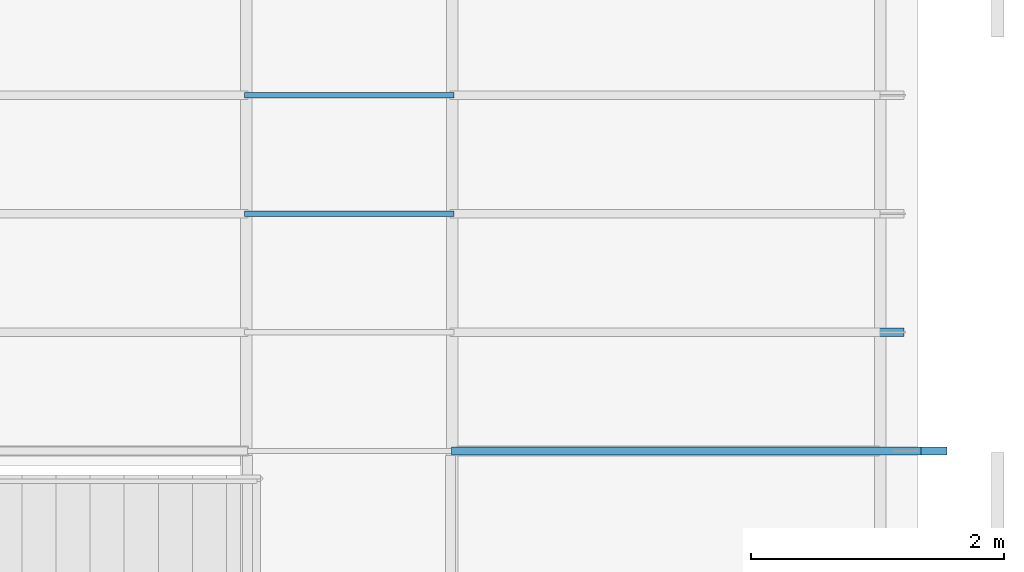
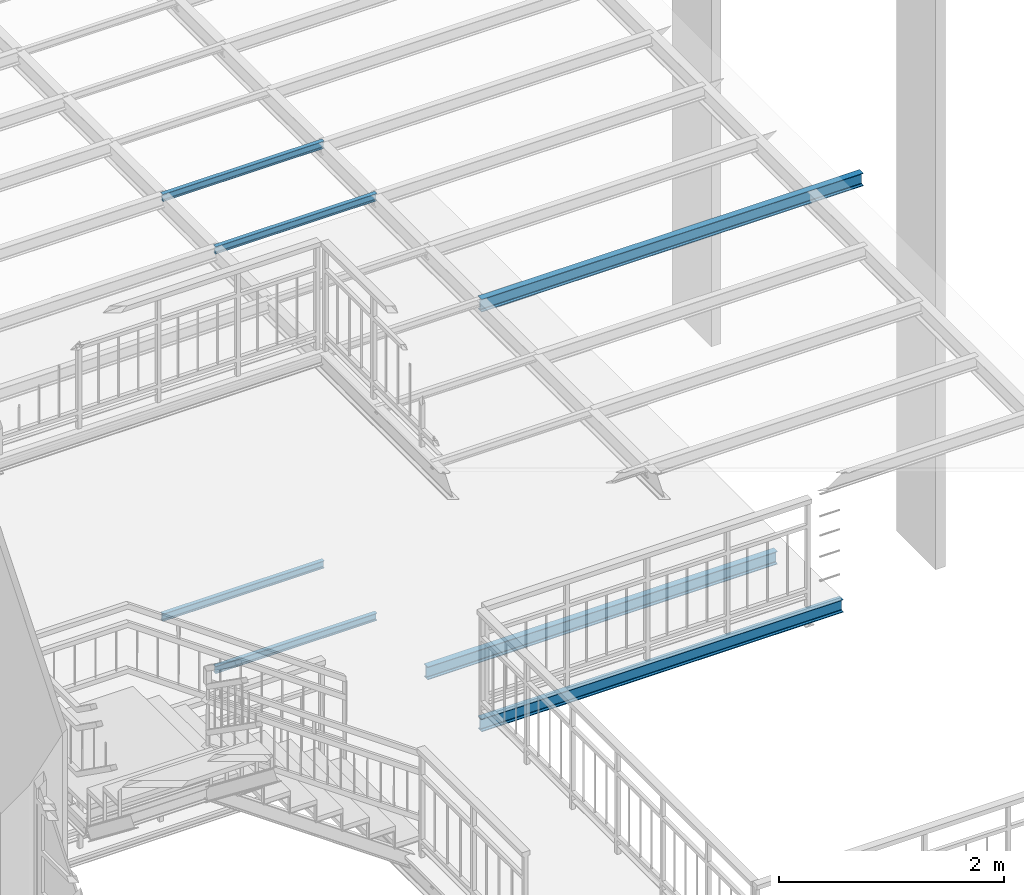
# One storey, part 16 of 33: 7 beams.
"""IFC2X3 building model written with IfcOpenShell, lengths in metres."""

from ifc_helpers import new_model, entity, si_unit, converted_unit, derived_unit, direction, frame, frame_2d, origin, place, context, subcontext, project, spatial, polyline, circle_curve, parameter, trimmed, segment, composite_curve, outline, extrude, material, type_object, element, save


model = new_model("IFC2X3")

# Units and contexts
model_context = context("Model", 3, precision=1e-05, world=origin(), true_north=direction((6.12303176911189e-17, 1.0)))
body_context = subcontext(model_context, "Body", "Model", "MODEL_VIEW")
ifc_project = project(units=[si_unit("LENGTHUNIT", "METRE"), si_unit("AREAUNIT", "SQUARE_METRE"), si_unit("VOLUMEUNIT", "CUBIC_METRE"), converted_unit("PLANEANGLEUNIT", "DEGREE", entity("IfcRatioMeasure", 0.0174532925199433), si_unit("PLANEANGLEUNIT", "RADIAN"), dimensions=[0, 0, 0, 0, 0, 0, 0]), si_unit("MASSUNIT", "GRAM", prefix="KILO"), derived_unit("MASSDENSITYUNIT", [(si_unit("MASSUNIT", "GRAM", prefix="KILO"), 1), (si_unit("LENGTHUNIT", "METRE"), -3)]), derived_unit("MOMENTOFINERTIAUNIT", [(si_unit("LENGTHUNIT", "METRE"), 4)]), si_unit("TIMEUNIT", "SECOND"), si_unit("FREQUENCYUNIT", "HERTZ"), si_unit("THERMODYNAMICTEMPERATUREUNIT", "DEGREE_CELSIUS"), derived_unit("THERMALTRANSMITTANCEUNIT", [(si_unit("MASSUNIT", "GRAM", prefix="KILO"), 1), (si_unit("THERMODYNAMICTEMPERATUREUNIT", "KELVIN"), -1), (si_unit("TIMEUNIT", "SECOND"), -3)]), derived_unit("VOLUMETRICFLOWRATEUNIT", [(si_unit("LENGTHUNIT", "METRE"), 3), (si_unit("TIMEUNIT", "SECOND"), -1)]), si_unit("ELECTRICCURRENTUNIT", "AMPERE"), si_unit("ELECTRICVOLTAGEUNIT", "VOLT"), si_unit("POWERUNIT", "WATT"), si_unit("FORCEUNIT", "NEWTON", prefix="KILO"), si_unit("ILLUMINANCEUNIT", "LUX"), si_unit("LUMINOUSFLUXUNIT", "LUMEN"), si_unit("LUMINOUSINTENSITYUNIT", "CANDELA"), derived_unit("USERDEFINED", [(si_unit("MASSUNIT", "GRAM", prefix="KILO"), -1), (si_unit("LENGTHUNIT", "METRE"), -2), (si_unit("TIMEUNIT", "SECOND"), 3), (si_unit("LUMINOUSFLUXUNIT", "LUMEN"), 1)]), derived_unit("LINEARVELOCITYUNIT", [(si_unit("LENGTHUNIT", "METRE"), 1), (si_unit("TIMEUNIT", "SECOND"), -1)]), si_unit("PRESSUREUNIT", "PASCAL"), derived_unit("USERDEFINED", [(si_unit("LENGTHUNIT", "METRE"), -2), (si_unit("MASSUNIT", "GRAM", prefix="KILO"), 1), (si_unit("TIMEUNIT", "SECOND"), -2)]), derived_unit("LINEARFORCEUNIT", [(si_unit("MASSUNIT", "GRAM", prefix="KILO"), 1), (si_unit("LENGTHUNIT", "METRE"), 1), (si_unit("TIMEUNIT", "SECOND"), -2), (si_unit("LENGTHUNIT", "METRE"), -1)]), derived_unit("PLANARFORCEUNIT", [(si_unit("MASSUNIT", "GRAM", prefix="KILO"), 1), (si_unit("LENGTHUNIT", "METRE"), 1), (si_unit("TIMEUNIT", "SECOND"), -2), (si_unit("LENGTHUNIT", "METRE"), -2)])], contexts=[model_context])

# Site, building, storey
site_placement = place(None, origin())
site = spatial("IfcSite", under=ifc_project, at=site_placement, Name="Superficie", CompositionType="ELEMENT")
building_placement = place(site_placement, origin())
building = spatial("IfcBuilding", under=site, at=building_placement, Name="Telegestiones", CompositionType="ELEMENT")
storey_placement = place(building_placement, frame((0.0, 0.0, 4.94)))
storey = spatial("IfcBuildingStorey", under=building, at=storey_placement, Name="Nivel 1_NPT", CompositionType="ELEMENT", Elevation=4.94)

# Beams
ifc_material = material(Name="Metal - Acero - 345 MPa")
beam_type_1 = type_object("IfcBeamType", Name="IPN - Secciones en I con alas cónicas:IPN 140", PredefinedType="NOTDEFINED")
beam_1_placement = place(storey_placement, frame((11.2748126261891, 6.43560722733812, 0.0)))
element("IfcBeam", 1, at=beam_1_placement, inside=storey, type_object=beam_type_1, material=ifc_material, Name="IPN - Secciones en I con alas cónicas:IPN 140", ObjectType="IPN - Secciones en I con alas cónicas:IPN 140", context=body_context, shape_type="SweptSolid", body=[
    extrude(outline(composite_curve([segment(polyline([(0.0666671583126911, -0.0330000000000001), (0.0700000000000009, -0.0330000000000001)]), True, "CONTINUOUS"), segment(polyline([(0.0700000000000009, -0.0330000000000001), (0.0700000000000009, 0.032999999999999)]), True, "CONTINUOUS"), segment(polyline([(0.0700000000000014, 0.032999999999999), (0.0666671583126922, 0.032999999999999)]), True, "CONTINUOUS"), segment(trimmed(circle_curve(frame_2d((0.0666671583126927, 0.0295999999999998), x_axis=(0.0, 1.0)), 0.00340000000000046), [parameter(0.0)], [parameter(82.0303896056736)], True, "PARAMETER"), True, "CONTINUOUS"), segment(polyline([(0.0632999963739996, 0.0300714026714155), (0.0601763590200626, 0.00775970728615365)]), True, "CONTINUOUS"), segment(trimmed(circle_curve(frame_2d((0.0545314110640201, 0.00854999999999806), x_axis=(0.990341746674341, -0.138647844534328)), 0.00569999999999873), [parameter(277.969610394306)], [parameter(0.0)], True, "PARAMETER"), False, "CONTINUOUS"), segment(polyline([(0.0545314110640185, 0.00284999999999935), (-0.0545314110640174, 0.00284999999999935)]), True, "CONTINUOUS"), segment(trimmed(circle_curve(frame_2d((-0.0545314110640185, 0.00854999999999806), x_axis=(0.0, -1.0)), 0.00569999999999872), [parameter(277.969610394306)], [parameter(0.0)], True, "PARAMETER"), False, "CONTINUOUS"), segment(polyline([(-0.0601763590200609, 0.00775970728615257), (-0.0632999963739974, 0.0300714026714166)]), True, "CONTINUOUS"), segment(trimmed(circle_curve(frame_2d((-0.0666671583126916, 0.0295999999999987), x_axis=(0.990341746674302, 0.138647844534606)), 0.00340000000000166), [parameter(0.0)], [parameter(82.0303896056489)], True, "PARAMETER"), True, "CONTINUOUS"), segment(polyline([(-0.0666671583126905, 0.032999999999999), (-0.0699999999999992, 0.032999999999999)]), True, "CONTINUOUS"), segment(polyline([(-0.0699999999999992, 0.032999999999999), (-0.0699999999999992, -0.0330000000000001)]), True, "CONTINUOUS"), segment(polyline([(-0.0699999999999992, -0.0330000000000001), (-0.0666671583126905, -0.0330000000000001)]), True, "CONTINUOUS"), segment(trimmed(circle_curve(frame_2d((-0.0666671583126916, -0.0295999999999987), x_axis=(0.0, -1.0)), 0.00340000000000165), [parameter(0.0)], [parameter(82.0303896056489)], True, "PARAMETER"), True, "CONTINUOUS"), segment(polyline([(-0.0632999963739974, -0.0300714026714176), (-0.0601763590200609, -0.00775970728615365)]), True, "CONTINUOUS"), segment(trimmed(circle_curve(frame_2d((-0.0545314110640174, -0.00854999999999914), x_axis=(-0.990341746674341, 0.138647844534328)), 0.00569999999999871), [parameter(277.969610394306)], [parameter(0.0)], True, "PARAMETER"), False, "CONTINUOUS"), segment(polyline([(-0.0545314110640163, -0.00285000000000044), (0.0545314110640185, -0.00285000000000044)]), True, "CONTINUOUS"), segment(trimmed(circle_curve(frame_2d((0.0545314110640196, -0.00854999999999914), x_axis=(0.0, 1.0)), 0.0056999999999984), [parameter(277.969610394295)], [parameter(0.0)], True, "PARAMETER"), False, "CONTINUOUS"), segment(polyline([(0.060176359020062, -0.00775970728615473), (0.0632999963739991, -0.0300714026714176)]), True, "CONTINUOUS"), segment(trimmed(circle_curve(frame_2d((0.0666671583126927, -0.0295999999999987), x_axis=(-0.990341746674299, -0.138647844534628)), 0.00340000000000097), [parameter(0.0)], [parameter(82.0303896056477)], True, "PARAMETER"), True, "CONTINUOUS")], self_intersect=False)), frame((-0.00278380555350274, 0.0, -0.100000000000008), z_axis=(1.0, 0.0, 0.0), x_axis=(0.0, 0.0, -1.0)), (0.0, 0.0, 1.0), 3.71722731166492),
])
beam_2_placement = place(storey_placement, frame((11.2748126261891, 7.37460722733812, 0.0)))
element("IfcBeam", 2, at=beam_2_placement, inside=storey, type_object=beam_type_1, material=ifc_material, Name="IPN - Secciones en I con alas cónicas:IPN 140", ObjectType="IPN - Secciones en I con alas cónicas:IPN 140", context=body_context, shape_type="SweptSolid", body=[
    extrude(outline(composite_curve([segment(polyline([(0.0666671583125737, -0.0330000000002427), (0.0699999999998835, -0.0330000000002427)]), True, "CONTINUOUS"), segment(polyline([(0.0699999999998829, -0.0330000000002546), (0.0700000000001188, 0.0329999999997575)]), True, "CONTINUOUS"), segment(polyline([(0.0700000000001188, 0.0329999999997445), (0.0666671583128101, 0.0329999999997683)]), True, "CONTINUOUS"), segment(trimmed(circle_curve(frame_2d((0.0666671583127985, 0.0295999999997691), x_axis=(0.0, 1.0)), 0.00340000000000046), [parameter(0.0)], [parameter(82.0303896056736)], True, "PARAMETER"), True, "CONTINUOUS"), segment(polyline([(0.0632999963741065, 0.030071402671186), (0.0601763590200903, 0.00775970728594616)]), True, "CONTINUOUS"), segment(trimmed(circle_curve(frame_2d((0.0545314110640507, 0.00854999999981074), x_axis=(0.990341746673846, -0.138647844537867)), 0.00569999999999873), [parameter(277.969610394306)], [parameter(0.0)], True, "PARAMETER"), False, "CONTINUOUS"), segment(polyline([(0.0545314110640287, 0.00284999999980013), (-0.0545314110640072, 0.00285000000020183)]), True, "CONTINUOUS"), segment(trimmed(circle_curve(frame_2d((-0.0545314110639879, 0.00855000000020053), x_axis=(0.0, -1.0)), 0.00569999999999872), [parameter(277.969610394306)], [parameter(0.0)], True, "PARAMETER"), False, "CONTINUOUS"), segment(polyline([(-0.0601763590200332, 0.00775970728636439), (-0.06329999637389, 0.0300714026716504)]), True, "CONTINUOUS"), segment(trimmed(circle_curve(frame_2d((-0.0666671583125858, 0.0296000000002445), x_axis=(0.990341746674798, 0.138647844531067)), 0.00340000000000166), [parameter(0.0)], [parameter(82.0303896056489)], True, "PARAMETER"), True, "CONTINUOUS"), segment(polyline([(-0.0666671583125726, 0.0330000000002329), (-0.0699999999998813, 0.0330000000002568)]), True, "CONTINUOUS"), segment(polyline([(-0.0699999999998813, 0.0330000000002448), (-0.0700000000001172, -0.0329999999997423)]), True, "CONTINUOUS"), segment(polyline([(-0.0700000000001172, -0.0329999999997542), (-0.0666671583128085, -0.0329999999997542)]), True, "CONTINUOUS"), segment(trimmed(circle_curve(frame_2d((-0.0666671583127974, -0.0295999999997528), x_axis=(0.0, -1.0)), 0.00340000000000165), [parameter(0.0)], [parameter(82.0303896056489)], True, "PARAMETER"), True, "CONTINUOUS"), segment(polyline([(-0.0632999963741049, -0.0300714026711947), (-0.0601763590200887, -0.007759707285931)]), True, "CONTINUOUS"), segment(trimmed(circle_curve(frame_2d((-0.054531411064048, -0.00854999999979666), x_axis=(-0.990341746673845, 0.138647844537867)), 0.00569999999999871), [parameter(277.969610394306)], [parameter(0.0)], True, "PARAMETER"), False, "CONTINUOUS"), segment(polyline([(-0.0545314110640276, -0.00284999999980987), (0.0545314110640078, -0.00285000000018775)]), True, "CONTINUOUS"), segment(trimmed(circle_curve(frame_2d((0.054531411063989, -0.00855000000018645), x_axis=(0.0, 1.0)), 0.0056999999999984), [parameter(277.969610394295)], [parameter(0.0)], True, "PARAMETER"), False, "CONTINUOUS"), segment(polyline([(0.0601763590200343, -0.00775970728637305), (0.0632999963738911, -0.0300714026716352)]), True, "CONTINUOUS"), segment(trimmed(circle_curve(frame_2d((0.0666671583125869, -0.0296000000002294), x_axis=(-0.990341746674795, -0.138647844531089)), 0.00340000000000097), [parameter(0.0)], [parameter(82.0303896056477)], True, "PARAMETER"), True, "CONTINUOUS")], self_intersect=False)), frame((-0.0149999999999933, 0.0, -0.100000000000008), z_axis=(1.0, 0.0, 0.0), x_axis=(0.0, 0.0, -1.0)), (0.0, 0.0, 1.0), 3.59499999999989),
])
beam_3_placement = place(storey_placement, frame((11.2748126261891, 6.43560722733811, 4.56)))
element("IfcBeam", 3, at=beam_3_placement, inside=storey, type_object=beam_type_1, material=ifc_material, Name="IPN - Secciones en I con alas cónicas:IPN 140", ObjectType="IPN - Secciones en I con alas cónicas:IPN 140", context=body_context, shape_type="SweptSolid", body=[
    extrude(outline(composite_curve([segment(polyline([(0.0666671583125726, -0.0330000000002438), (0.0699999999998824, -0.0330000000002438)]), True, "CONTINUOUS"), segment(polyline([(0.0699999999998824, -0.0330000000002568), (0.0700000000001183, 0.0329999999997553)]), True, "CONTINUOUS"), segment(polyline([(0.0700000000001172, 0.0329999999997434), (0.0666671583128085, 0.0329999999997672)]), True, "CONTINUOUS"), segment(trimmed(circle_curve(frame_2d((0.0666671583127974, 0.0295999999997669), x_axis=(0.0, 1.0)), 0.00340000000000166), [parameter(0.0)], [parameter(82.0303896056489)], True, "PARAMETER"), True, "CONTINUOUS"), segment(polyline([(0.063299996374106, 0.0300714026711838), (0.0601763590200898, 0.00775970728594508)]), True, "CONTINUOUS"), segment(trimmed(circle_curve(frame_2d((0.054531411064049, 0.00854999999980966), x_axis=(0.990341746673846, -0.138647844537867)), 0.00569999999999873), [parameter(277.969610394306)], [parameter(0.0)], True, "PARAMETER"), False, "CONTINUOUS"), segment(polyline([(0.0545314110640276, 0.00284999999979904), (-0.0545314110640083, 0.00285000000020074)]), True, "CONTINUOUS"), segment(trimmed(circle_curve(frame_2d((-0.054531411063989, 0.00855000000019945), x_axis=(0.0, -1.0)), 0.00569999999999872), [parameter(277.969610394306)], [parameter(0.0)], True, "PARAMETER"), False, "CONTINUOUS"), segment(polyline([(-0.0601763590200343, 0.00775970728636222), (-0.0632999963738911, 0.0300714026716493)]), True, "CONTINUOUS"), segment(trimmed(circle_curve(frame_2d((-0.0666671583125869, 0.0296000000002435), x_axis=(0.990341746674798, 0.138647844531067)), 0.00340000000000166), [parameter(0.0)], [parameter(82.0303896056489)], True, "PARAMETER"), True, "CONTINUOUS"), segment(polyline([(-0.0666671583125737, 0.0330000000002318), (-0.0699999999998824, 0.0330000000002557)]), True, "CONTINUOUS"), segment(polyline([(-0.0699999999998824, 0.0330000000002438), (-0.0700000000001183, -0.0329999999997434)]), True, "CONTINUOUS"), segment(polyline([(-0.0700000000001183, -0.0329999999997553), (-0.0666671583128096, -0.0329999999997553)]), True, "CONTINUOUS"), segment(trimmed(circle_curve(frame_2d((-0.0666671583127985, -0.0295999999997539), x_axis=(0.0, -1.0)), 0.00340000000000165), [parameter(0.0)], [parameter(82.0303896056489)], True, "PARAMETER"), True, "CONTINUOUS"), segment(polyline([(-0.063299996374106, -0.0300714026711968), (-0.0601763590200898, -0.00775970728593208)]), True, "CONTINUOUS"), segment(trimmed(circle_curve(frame_2d((-0.054531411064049, -0.00854999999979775), x_axis=(-0.990341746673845, 0.138647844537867)), 0.00569999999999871), [parameter(277.969610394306)], [parameter(0.0)], True, "PARAMETER"), False, "CONTINUOUS"), segment(polyline([(-0.0545314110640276, -0.00284999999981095), (0.0545314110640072, -0.00285000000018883)]), True, "CONTINUOUS"), segment(trimmed(circle_curve(frame_2d((0.0545314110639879, -0.00855000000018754), x_axis=(0.0, 1.0)), 0.0056999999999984), [parameter(277.969610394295)], [parameter(0.0)], True, "PARAMETER"), False, "CONTINUOUS"), segment(polyline([(0.0601763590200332, -0.00775970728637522), (0.06329999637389, -0.0300714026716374)]), True, "CONTINUOUS"), segment(trimmed(circle_curve(frame_2d((0.0666671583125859, -0.0296000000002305), x_axis=(-0.990341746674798, -0.138647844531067)), 0.00340000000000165), [parameter(0.0)], [parameter(82.0303896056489)], True, "PARAMETER"), True, "CONTINUOUS")], self_intersect=False)), frame((-0.00300000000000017, 0.0, -0.100000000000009), z_axis=(1.0, 0.0, 0.0), x_axis=(0.0, 0.0, -1.0)), (0.0, 0.0, 1.0), 3.923),
])
beam_type_2 = type_object("IfcBeamType", Name="IPN - Secciones en I con alas cónicas:IPN 80", PredefinedType="NOTDEFINED")
beam_4_placement = place(storey_placement, frame((9.6448126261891, 9.25260722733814, 0.0)))
element("IfcBeam", 4, at=beam_4_placement, inside=storey, type_object=beam_type_2, material=ifc_material, Name="IPN - Secciones en I con alas cónicas:IPN 80", ObjectType="IPN - Secciones en I con alas cónicas:IPN 80", context=body_context, shape_type="SweptSolid", body=[
    extrude(outline(composite_curve([segment(polyline([(0.0375704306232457, -0.0210000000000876), (0.0399999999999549, -0.0210000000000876)]), True, "CONTINUOUS"), segment(polyline([(0.0399999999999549, -0.021000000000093), (0.0400000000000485, 0.0209999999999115)]), True, "CONTINUOUS"), segment(polyline([(0.0400000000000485, 0.0209999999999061), (0.0375704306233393, 0.0209999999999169)]), True, "CONTINUOUS"), segment(trimmed(circle_curve(frame_2d((0.0375704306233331, 0.0186999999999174), x_axis=(0.0, 1.0)), 0.00229999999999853), [parameter(0.0)], [parameter(82.0303896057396)], True, "PARAMETER"), True, "CONTINUOUS"), segment(polyline([(0.0352926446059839, 0.0190188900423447), (0.0333732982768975, 0.00530927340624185)]), True, "CONTINUOUS"), segment(trimmed(circle_curve(frame_2d((0.0295109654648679, 0.00584999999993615), x_axis=(0.99034174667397, -0.138647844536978)), 0.00390000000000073), [parameter(277.96961039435)], [parameter(0.0)], True, "PARAMETER"), False, "CONTINUOUS"), segment(polyline([(0.0295109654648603, 0.00194999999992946), (-0.0295109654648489, 0.00195000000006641)]), True, "CONTINUOUS"), segment(trimmed(circle_curve(frame_2d((-0.0295109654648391, 0.00585000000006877), x_axis=(0.0, -1.0)), 0.00390000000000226), [parameter(277.969610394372)], [parameter(0.0)], True, "PARAMETER"), False, "CONTINUOUS"), segment(polyline([(-0.0333732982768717, 0.00530927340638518), (-0.035292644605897, 0.0190188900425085)]), True, "CONTINUOUS"), segment(trimmed(circle_curve(frame_2d((-0.037570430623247, 0.018700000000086), x_axis=(0.990341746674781, 0.138647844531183)), 0.00229999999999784), [parameter(0.0)], [parameter(82.0303896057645)], True, "PARAMETER"), True, "CONTINUOUS"), segment(polyline([(-0.037570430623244, 0.0210000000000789), (-0.0399999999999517, 0.0210000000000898)]), True, "CONTINUOUS"), segment(polyline([(-0.0399999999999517, 0.0210000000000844), (-0.0400000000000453, -0.0209999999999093)]), True, "CONTINUOUS"), segment(polyline([(-0.0400000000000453, -0.0209999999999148), (-0.0375704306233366, -0.0209999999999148)]), True, "CONTINUOUS"), segment(trimmed(circle_curve(frame_2d((-0.0375704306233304, -0.0186999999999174), x_axis=(0.0, -1.0)), 0.00229999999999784), [parameter(0.0)], [parameter(82.0303896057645)], True, "PARAMETER"), True, "CONTINUOUS"), segment(polyline([(-0.0352926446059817, -0.0190188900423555), (-0.0333732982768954, -0.00530927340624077)]), True, "CONTINUOUS"), segment(trimmed(circle_curve(frame_2d((-0.0295109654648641, -0.00584999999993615), x_axis=(-0.990341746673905, 0.138647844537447)), 0.00390000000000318), [parameter(277.969610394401)], [parameter(0.0)], True, "PARAMETER"), False, "CONTINUOUS"), segment(polyline([(-0.0295109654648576, -0.00194999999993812), (0.0295109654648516, -0.00195000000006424)]), True, "CONTINUOUS"), segment(trimmed(circle_curve(frame_2d((0.0295109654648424, -0.00585000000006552), x_axis=(0.0, 1.0)), 0.00390000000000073), [parameter(277.96961039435)], [parameter(0.0)], True, "PARAMETER"), False, "CONTINUOUS"), segment(polyline([(0.0333732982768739, -0.00530927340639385), (0.0352926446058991, -0.0190188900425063)]), True, "CONTINUOUS"), segment(trimmed(circle_curve(frame_2d((0.0375704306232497, -0.0187000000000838), x_axis=(-0.990341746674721, -0.138647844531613)), 0.00229999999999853), [parameter(0.0)], [parameter(82.0303896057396)], True, "PARAMETER"), True, "CONTINUOUS")], self_intersect=False)), frame((-0.0149999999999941, 0.0, -0.0700000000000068), z_axis=(1.0, 0.0, 0.0), x_axis=(0.0, 0.0, -1.0)), (0.0, 0.0, 1.0), 1.66),
])
beam_5_placement = place(storey_placement, frame((9.6448126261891, 8.31360722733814, 0.0)))
element("IfcBeam", 5, at=beam_5_placement, inside=storey, type_object=beam_type_2, material=ifc_material, Name="IPN - Secciones en I con alas cónicas:IPN 80", ObjectType="IPN - Secciones en I con alas cónicas:IPN 80", context=body_context, shape_type="SweptSolid", body=[
    extrude(outline(composite_curve([segment(polyline([(0.0375704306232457, -0.0210000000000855), (0.0399999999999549, -0.0210000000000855)]), True, "CONTINUOUS"), segment(polyline([(0.0399999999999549, -0.0210000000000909), (0.0400000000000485, 0.0209999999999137)]), True, "CONTINUOUS"), segment(polyline([(0.0400000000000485, 0.0209999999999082), (0.0375704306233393, 0.0209999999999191)]), True, "CONTINUOUS"), segment(trimmed(circle_curve(frame_2d((0.0375704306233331, 0.0186999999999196), x_axis=(0.0, 1.0)), 0.00229999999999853), [parameter(0.0)], [parameter(82.0303896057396)], True, "PARAMETER"), True, "CONTINUOUS"), segment(polyline([(0.0352926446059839, 0.0190188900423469), (0.0333732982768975, 0.00530927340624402)]), True, "CONTINUOUS"), segment(trimmed(circle_curve(frame_2d((0.0295109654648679, 0.00584999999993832), x_axis=(0.99034174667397, -0.138647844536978)), 0.00390000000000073), [parameter(277.96961039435)], [parameter(0.0)], True, "PARAMETER"), False, "CONTINUOUS"), segment(polyline([(0.0295109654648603, 0.00194999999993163), (-0.0295109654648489, 0.00195000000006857)]), True, "CONTINUOUS"), segment(trimmed(circle_curve(frame_2d((-0.0295109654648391, 0.00585000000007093), x_axis=(0.0, -1.0)), 0.00390000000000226), [parameter(277.969610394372)], [parameter(0.0)], True, "PARAMETER"), False, "CONTINUOUS"), segment(polyline([(-0.0333732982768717, 0.00530927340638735), (-0.035292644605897, 0.0190188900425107)]), True, "CONTINUOUS"), segment(trimmed(circle_curve(frame_2d((-0.037570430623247, 0.0187000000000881), x_axis=(0.990341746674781, 0.138647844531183)), 0.00229999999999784), [parameter(0.0)], [parameter(82.0303896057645)], True, "PARAMETER"), True, "CONTINUOUS"), segment(polyline([(-0.037570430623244, 0.0210000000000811), (-0.0399999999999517, 0.0210000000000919)]), True, "CONTINUOUS"), segment(polyline([(-0.0399999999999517, 0.0210000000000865), (-0.0400000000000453, -0.0209999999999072)]), True, "CONTINUOUS"), segment(polyline([(-0.0400000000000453, -0.0209999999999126), (-0.0375704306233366, -0.0209999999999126)]), True, "CONTINUOUS"), segment(trimmed(circle_curve(frame_2d((-0.0375704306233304, -0.0186999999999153), x_axis=(0.0, -1.0)), 0.00229999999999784), [parameter(0.0)], [parameter(82.0303896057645)], True, "PARAMETER"), True, "CONTINUOUS"), segment(polyline([(-0.0352926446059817, -0.0190188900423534), (-0.0333732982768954, -0.0053092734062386)]), True, "CONTINUOUS"), segment(trimmed(circle_curve(frame_2d((-0.0295109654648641, -0.00584999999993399), x_axis=(-0.990341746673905, 0.138647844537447)), 0.00390000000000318), [parameter(277.969610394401)], [parameter(0.0)], True, "PARAMETER"), False, "CONTINUOUS"), segment(polyline([(-0.0295109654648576, -0.00194999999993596), (0.0295109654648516, -0.00195000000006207)]), True, "CONTINUOUS"), segment(trimmed(circle_curve(frame_2d((0.0295109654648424, -0.00585000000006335), x_axis=(0.0, 1.0)), 0.00390000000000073), [parameter(277.96961039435)], [parameter(0.0)], True, "PARAMETER"), False, "CONTINUOUS"), segment(polyline([(0.0333732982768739, -0.00530927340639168), (0.0352926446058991, -0.0190188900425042)]), True, "CONTINUOUS"), segment(trimmed(circle_curve(frame_2d((0.0375704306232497, -0.0187000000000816), x_axis=(-0.990341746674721, -0.138647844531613)), 0.00229999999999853), [parameter(0.0)], [parameter(82.0303896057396)], True, "PARAMETER"), True, "CONTINUOUS")], self_intersect=False)), frame((-0.0149999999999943, 0.0, -0.0700000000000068), z_axis=(1.0, 0.0, 0.0), x_axis=(0.0, 0.0, -1.0)), (0.0, 0.0, 1.0), 1.66),
])
beam_6_placement = place(storey_placement, frame((9.6448126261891, 9.25260722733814, 4.56)))
element("IfcBeam", 6, at=beam_6_placement, inside=storey, type_object=beam_type_2, material=ifc_material, Name="IPN - Secciones en I con alas cónicas:IPN 80", ObjectType="IPN - Secciones en I con alas cónicas:IPN 80", context=body_context, shape_type="SweptSolid", body=[
    extrude(outline(composite_curve([segment(polyline([(0.0375704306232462, -0.0210000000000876), (0.0399999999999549, -0.0210000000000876)]), True, "CONTINUOUS"), segment(polyline([(0.0399999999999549, -0.021000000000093), (0.0400000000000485, 0.0209999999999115)]), True, "CONTINUOUS"), segment(polyline([(0.0400000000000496, 0.0209999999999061), (0.0375704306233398, 0.0209999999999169)]), True, "CONTINUOUS"), segment(trimmed(circle_curve(frame_2d((0.0375704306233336, 0.0186999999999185), x_axis=(0.0, 1.0)), 0.00229999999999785), [parameter(0.0)], [parameter(82.0303896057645)], True, "PARAMETER"), True, "CONTINUOUS"), segment(polyline([(0.035292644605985, 0.0190188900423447), (0.0333732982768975, 0.00530927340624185)]), True, "CONTINUOUS"), segment(trimmed(circle_curve(frame_2d((0.0295109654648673, 0.00584999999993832), x_axis=(0.990341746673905, -0.138647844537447)), 0.00390000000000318), [parameter(277.969610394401)], [parameter(0.0)], True, "PARAMETER"), False, "CONTINUOUS"), segment(polyline([(0.0295109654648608, 0.00194999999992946), (-0.0295109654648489, 0.00195000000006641)]), True, "CONTINUOUS"), segment(trimmed(circle_curve(frame_2d((-0.0295109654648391, 0.00585000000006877), x_axis=(0.0, -1.0)), 0.00390000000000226), [parameter(277.969610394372)], [parameter(0.0)], True, "PARAMETER"), False, "CONTINUOUS"), segment(polyline([(-0.0333732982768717, 0.00530927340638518), (-0.035292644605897, 0.0190188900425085)]), True, "CONTINUOUS"), segment(trimmed(circle_curve(frame_2d((-0.037570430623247, 0.018700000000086), x_axis=(0.990341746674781, 0.138647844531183)), 0.00229999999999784), [parameter(0.0)], [parameter(82.0303896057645)], True, "PARAMETER"), True, "CONTINUOUS"), segment(polyline([(-0.037570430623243, 0.0210000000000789), (-0.0399999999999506, 0.0210000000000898)]), True, "CONTINUOUS"), segment(polyline([(-0.0399999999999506, 0.0210000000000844), (-0.0400000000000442, -0.0209999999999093)]), True, "CONTINUOUS"), segment(polyline([(-0.0400000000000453, -0.0209999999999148), (-0.0375704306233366, -0.0209999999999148)]), True, "CONTINUOUS"), segment(trimmed(circle_curve(frame_2d((-0.0375704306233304, -0.0186999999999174), x_axis=(0.0, -1.0)), 0.00229999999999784), [parameter(0.0)], [parameter(82.0303896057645)], True, "PARAMETER"), True, "CONTINUOUS"), segment(polyline([(-0.0352926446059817, -0.0190188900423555), (-0.0333732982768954, -0.00530927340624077)]), True, "CONTINUOUS"), segment(trimmed(circle_curve(frame_2d((-0.0295109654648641, -0.00584999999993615), x_axis=(-0.990341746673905, 0.138647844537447)), 0.00390000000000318), [parameter(277.969610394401)], [parameter(0.0)], True, "PARAMETER"), False, "CONTINUOUS"), segment(polyline([(-0.0295109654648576, -0.00194999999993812), (0.0295109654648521, -0.00195000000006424)]), True, "CONTINUOUS"), segment(trimmed(circle_curve(frame_2d((0.0295109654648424, -0.0058500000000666), x_axis=(0.0, 1.0)), 0.00390000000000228), [parameter(277.969610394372)], [parameter(0.0)], True, "PARAMETER"), False, "CONTINUOUS"), segment(polyline([(0.0333732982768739, -0.00530927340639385), (0.0352926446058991, -0.0190188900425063)]), True, "CONTINUOUS"), segment(trimmed(circle_curve(frame_2d((0.0375704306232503, -0.0187000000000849), x_axis=(-0.990341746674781, -0.138647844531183)), 0.00229999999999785), [parameter(0.0)], [parameter(82.0303896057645)], True, "PARAMETER"), True, "CONTINUOUS")], self_intersect=False)), frame((-0.0149999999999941, 0.0, -0.0700000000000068), z_axis=(1.0, 0.0, 0.0), x_axis=(0.0, 0.0, -1.0)), (0.0, 0.0, 1.0), 1.66),
])
beam_7_placement = place(storey_placement, frame((9.6448126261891, 8.31360722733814, 4.56)))
element("IfcBeam", 7, at=beam_7_placement, inside=storey, type_object=beam_type_2, material=ifc_material, Name="IPN - Secciones en I con alas cónicas:IPN 80", ObjectType="IPN - Secciones en I con alas cónicas:IPN 80", context=body_context, shape_type="SweptSolid", body=[
    extrude(outline(composite_curve([segment(polyline([(0.0375704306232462, -0.0210000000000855), (0.0399999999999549, -0.0210000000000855)]), True, "CONTINUOUS"), segment(polyline([(0.0399999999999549, -0.0210000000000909), (0.0400000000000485, 0.0209999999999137)]), True, "CONTINUOUS"), segment(polyline([(0.0400000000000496, 0.0209999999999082), (0.0375704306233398, 0.0209999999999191)]), True, "CONTINUOUS"), segment(trimmed(circle_curve(frame_2d((0.0375704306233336, 0.0186999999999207), x_axis=(0.0, 1.0)), 0.00229999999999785), [parameter(0.0)], [parameter(82.0303896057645)], True, "PARAMETER"), True, "CONTINUOUS"), segment(polyline([(0.035292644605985, 0.0190188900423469), (0.0333732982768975, 0.00530927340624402)]), True, "CONTINUOUS"), segment(trimmed(circle_curve(frame_2d((0.0295109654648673, 0.00584999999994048), x_axis=(0.990341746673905, -0.138647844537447)), 0.00390000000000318), [parameter(277.969610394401)], [parameter(0.0)], True, "PARAMETER"), False, "CONTINUOUS"), segment(polyline([(0.0295109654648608, 0.00194999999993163), (-0.0295109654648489, 0.00195000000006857)]), True, "CONTINUOUS"), segment(trimmed(circle_curve(frame_2d((-0.0295109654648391, 0.00585000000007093), x_axis=(0.0, -1.0)), 0.00390000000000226), [parameter(277.969610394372)], [parameter(0.0)], True, "PARAMETER"), False, "CONTINUOUS"), segment(polyline([(-0.0333732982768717, 0.00530927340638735), (-0.035292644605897, 0.0190188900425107)]), True, "CONTINUOUS"), segment(trimmed(circle_curve(frame_2d((-0.037570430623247, 0.0187000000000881), x_axis=(0.990341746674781, 0.138647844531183)), 0.00229999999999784), [parameter(0.0)], [parameter(82.0303896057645)], True, "PARAMETER"), True, "CONTINUOUS"), segment(polyline([(-0.037570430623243, 0.0210000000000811), (-0.0399999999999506, 0.0210000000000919)]), True, "CONTINUOUS"), segment(polyline([(-0.0399999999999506, 0.0210000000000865), (-0.0400000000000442, -0.0209999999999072)]), True, "CONTINUOUS"), segment(polyline([(-0.0400000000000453, -0.0209999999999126), (-0.0375704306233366, -0.0209999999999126)]), True, "CONTINUOUS"), segment(trimmed(circle_curve(frame_2d((-0.0375704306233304, -0.0186999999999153), x_axis=(0.0, -1.0)), 0.00229999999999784), [parameter(0.0)], [parameter(82.0303896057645)], True, "PARAMETER"), True, "CONTINUOUS"), segment(polyline([(-0.0352926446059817, -0.0190188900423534), (-0.0333732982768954, -0.0053092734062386)]), True, "CONTINUOUS"), segment(trimmed(circle_curve(frame_2d((-0.0295109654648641, -0.00584999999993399), x_axis=(-0.990341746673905, 0.138647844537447)), 0.00390000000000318), [parameter(277.969610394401)], [parameter(0.0)], True, "PARAMETER"), False, "CONTINUOUS"), segment(polyline([(-0.0295109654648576, -0.00194999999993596), (0.0295109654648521, -0.00195000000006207)]), True, "CONTINUOUS"), segment(trimmed(circle_curve(frame_2d((0.0295109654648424, -0.00585000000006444), x_axis=(0.0, 1.0)), 0.00390000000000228), [parameter(277.969610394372)], [parameter(0.0)], True, "PARAMETER"), False, "CONTINUOUS"), segment(polyline([(0.0333732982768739, -0.00530927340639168), (0.0352926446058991, -0.0190188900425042)]), True, "CONTINUOUS"), segment(trimmed(circle_curve(frame_2d((0.0375704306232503, -0.0187000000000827), x_axis=(-0.990341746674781, -0.138647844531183)), 0.00229999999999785), [parameter(0.0)], [parameter(82.0303896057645)], True, "PARAMETER"), True, "CONTINUOUS")], self_intersect=False)), frame((-0.0149999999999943, 0.0, -0.0700000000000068), z_axis=(1.0, 0.0, 0.0), x_axis=(0.0, 0.0, -1.0)), (0.0, 0.0, 1.0), 1.66),
])

save(model, "model.ifc")
